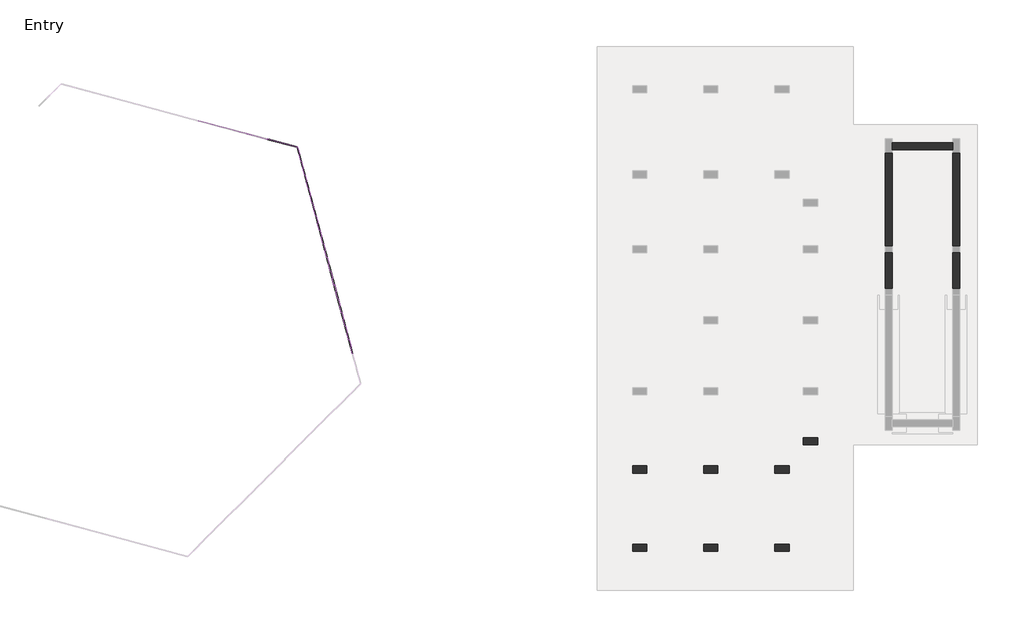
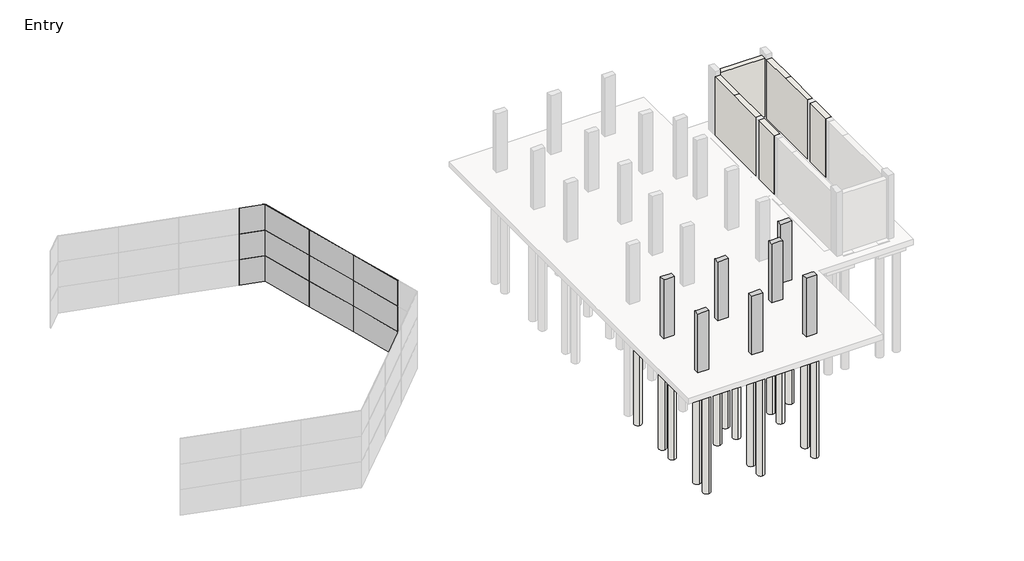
# One storey, part 2 of 4: 39 plates, 24 slabs, 7 columns, 5 walls.
"""IFC4 building model written with IfcOpenShell, lengths in millimetres."""

from ifc_helpers import new_model, si_unit, point, frame, frame_2d, origin, origin_with_axes, place, context, project, spatial, polyline, circle_curve, trimmed, segment, composite_curve, outline, extrude, faceted_brep, transform, mapped, element, save
from components import system_panel_glazed_1e57f9bb, system_panel_glazed_41de1ca9

model = new_model("IFC4")

# Units and contexts
model_context = context("Model", 3, world=origin())
ifc_project = project(units=[si_unit("LENGTHUNIT", "METRE", prefix="MILLI")], contexts=[model_context])

# Site, building, storey
site = spatial("IfcSite", under=ifc_project)
building = spatial("IfcBuilding", under=site)
storey = spatial("IfcBuildingStorey", under=building, Name="Entry", Elevation=0.0)

# Columns
placement = place(None, origin())
element("IfcColumn", 1, ObjectType="Concrete-Rectangular-Column : 12 x 24", at=placement, inside=storey, context=model_context, shape_type="Brep", body=[
    faceted_brep([(-15967.1663981, -6032.6512152, 0.0), (-15357.5663981, -6032.6512152, 0.0), (-15357.5663981, -6337.4512152, 0.0), (-15967.1663981, -6337.4512152, 0.0), (-15967.1663981, -6032.6512152, 3505.2), (-15814.7663981, -6032.6512152, 3505.2), (-15509.9663981, -6032.6512152, 3505.2), (-15357.5663981, -6032.6512152, 3505.2), (-15357.5663981, -6032.6512152, 2895.6), (-15357.5663981, -6337.4512152, 3505.2), (-15357.5663981, -6337.4512152, 2895.6), (-15509.9663981, -6337.4512152, 3505.2), (-15814.7663981, -6337.4512152, 3505.2), (-15967.1663981, -6337.4512152, 3505.2)], [[[0, 1, 2, 3]], [[4, 5, 6, 7, 8, 1, 0]], [[7, 9, 10, 2, 1, 8]], [[9, 11, 12, 13, 3, 2, 10]], [[13, 4, 0, 3]], [[4, 13, 12, 11, 9, 7, 6, 5]]]),
])
element("IfcColumn", 2, ObjectType="Concrete-Rectangular-Column : 12 x 24", at=placement, inside=storey, context=model_context, shape_type="Brep", body=[
    faceted_brep([(-15967.1663981, -9385.4512152, 0.0), (-15357.5663981, -9385.4512152, 0.0), (-15357.5663981, -9690.2512152, 0.0), (-15967.1663981, -9690.2512152, 0.0), (-15967.1663981, -9385.4512152, 3505.2), (-15814.7663981, -9385.4512152, 3505.2), (-15509.9663981, -9385.4512152, 3505.2), (-15357.5663981, -9385.4512152, 3505.2), (-15357.5663981, -9385.4512152, 2895.6), (-15357.5663981, -9690.2512152, 3505.2), (-15357.5663981, -9690.2512152, 2895.6), (-15967.1663981, -9690.2512152, 3505.2)], [[[0, 1, 2, 3]], [[4, 5, 6, 7, 8, 1, 0]], [[7, 9, 10, 2, 1, 8]], [[9, 11, 3, 2, 10]], [[11, 4, 0, 3]], [[4, 11, 9, 7, 6, 5]]]),
])
element("IfcColumn", 3, ObjectType="Concrete-Rectangular-Column : 12 x 24", at=placement, inside=storey, context=model_context, shape_type="Brep", body=[
    faceted_brep([(-12919.1663981, -9385.4512152, 0.0), (-12309.5663981, -9385.4512152, 0.0), (-12309.5663981, -9690.2512152, 0.0), (-12919.1663981, -9690.2512152, 0.0), (-12919.1663981, -9385.4512152, 3505.2), (-12766.7663981, -9385.4512152, 3505.2), (-12461.9663981, -9385.4512152, 3505.2), (-12309.5663981, -9385.4512152, 3505.2), (-12309.5663981, -9385.4512152, 2895.6), (-12919.1663981, -9385.4512152, 2895.6), (-12309.5663981, -9690.2512152, 3505.2), (-12309.5663981, -9690.2512152, 2895.6), (-12919.1663981, -9690.2512152, 3505.2), (-12919.1663981, -9690.2512152, 2895.6)], [[[0, 1, 2, 3]], [[4, 5, 6, 7, 8, 1, 0, 9]], [[7, 10, 11, 2, 1, 8]], [[10, 12, 13, 3, 2, 11]], [[12, 4, 9, 0, 3, 13]], [[4, 12, 10, 7, 6, 5]]]),
])
element("IfcColumn", 4, ObjectType="Concrete-Rectangular-Column : 12 x 24", at=placement, inside=storey, context=model_context, shape_type="Brep", body=[
    faceted_brep([(-12919.1663981, -6032.6512152, 0.0), (-12309.5663981, -6032.6512152, 0.0), (-12309.5663981, -6337.4512152, 0.0), (-12919.1663981, -6337.4512152, 0.0), (-12919.1663981, -6032.6512152, 3505.2), (-12766.7663981, -6032.6512152, 3505.2), (-12461.9663981, -6032.6512152, 3505.2), (-12309.5663981, -6032.6512152, 3505.2), (-12309.5663981, -6032.6512152, 2895.6), (-12919.1663981, -6032.6512152, 2895.6), (-12309.5663981, -6337.4512152, 3505.2), (-12309.5663981, -6337.4512152, 2895.6), (-12461.9663981, -6337.4512152, 3505.2), (-12766.7663981, -6337.4512152, 3505.2), (-12919.1663981, -6337.4512152, 3505.2), (-12919.1663981, -6337.4512152, 2895.6)], [[[0, 1, 2, 3]], [[4, 5, 6, 7, 8, 1, 0, 9]], [[7, 10, 11, 2, 1, 8]], [[10, 12, 13, 14, 15, 3, 2, 11]], [[14, 4, 9, 0, 3, 15]], [[4, 14, 13, 12, 10, 7, 6, 5]]]),
])
element("IfcColumn", 5, ObjectType="Concrete-Rectangular-Column : 12 x 24", at=placement, inside=storey, context=model_context, shape_type="Brep", body=[
    faceted_brep([(-8651.9663981, -4813.4512152, 0.0), (-8042.3663981, -4813.4512152, 0.0), (-8042.3663981, -5118.2512152, 0.0), (-8651.9663981, -5118.2512152, 0.0), (-8651.9663981, -4813.4512152, 3505.2), (-8499.5663981, -4813.4512152, 3505.2), (-8194.7663981, -4813.4512152, 3505.2), (-8042.3663981, -4813.4512152, 3505.2), (-8651.9663981, -4813.4512152, 2895.6), (-8042.3663981, -5118.2512152, 3505.2), (-8651.9663981, -5118.2512152, 3505.2), (-8651.9663981, -5118.2512152, 2895.6)], [[[0, 1, 2, 3]], [[4, 5, 6, 7, 1, 0, 8]], [[7, 9, 2, 1]], [[9, 10, 11, 3, 2]], [[10, 4, 8, 0, 3, 11]], [[4, 10, 9, 7, 6, 5]]]),
])
element("IfcColumn", 6, ObjectType="Concrete-Rectangular-Column : 12 x 24", at=placement, inside=storey, context=model_context, shape_type="Brep", body=[
    faceted_brep([(-9261.5663981, -6337.4512152, 0.0), (-9871.1663981, -6337.4512152, 0.0), (-9871.1663981, -6032.6512152, 0.0), (-9261.5663981, -6032.6512152, 0.0), (-9261.5663981, -6337.4512152, 3505.2), (-9413.9663981, -6337.4512152, 3505.2), (-9718.7663981, -6337.4512152, 3505.2), (-9871.1663981, -6337.4512152, 3505.2), (-9871.1663981, -6337.4512152, 2895.6), (-9871.1663981, -6032.6512152, 3505.2), (-9871.1663981, -6032.6512152, 2895.6), (-9718.7663981, -6032.6512152, 3505.2), (-9413.9663981, -6032.6512152, 3505.2), (-9261.5663981, -6032.6512152, 3505.2)], [[[0, 1, 2, 3]], [[4, 5, 6, 7, 8, 1, 0]], [[7, 9, 10, 2, 1, 8]], [[9, 11, 12, 13, 3, 2, 10]], [[13, 4, 0, 3]], [[4, 13, 12, 11, 9, 7, 6, 5]]]),
])
element("IfcColumn", 7, ObjectType="Concrete-Rectangular-Column : 12 x 24", at=placement, inside=storey, context=model_context, shape_type="Brep", body=[
    faceted_brep([(-9261.5663981, -9690.2512152, 0.0), (-9871.1663981, -9690.2512152, 0.0), (-9871.1663981, -9385.4512152, 0.0), (-9261.5663981, -9385.4512152, 0.0), (-9261.5663981, -9690.2512152, 3505.2), (-9871.1663981, -9690.2512152, 3505.2), (-9871.1663981, -9690.2512152, 2895.6), (-9871.1663981, -9385.4512152, 3505.2), (-9871.1663981, -9385.4512152, 2895.6), (-9718.7663981, -9385.4512152, 3505.2), (-9413.9663981, -9385.4512152, 3505.2), (-9261.5663981, -9385.4512152, 3505.2)], [[[0, 1, 2, 3]], [[4, 5, 6, 1, 0]], [[5, 7, 8, 2, 1, 6]], [[7, 9, 10, 11, 3, 2, 8]], [[11, 4, 0, 3]], [[4, 11, 10, 9, 7, 5]]]),
])

# Plates
system_panel_glazed_shape = system_panel_glazed_1e57f9bb(model_context)
element("IfcPlate", 8, ObjectType="System Panel : Glazed", at=placement, inside=storey, context=model_context, shape_type="MappedRepresentation", body=[
    mapped(system_panel_glazed_shape, transform((-29974.9189673, 6134.6850315, 0.0), x_axis=(0.25881904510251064, -0.965925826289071, 0.0), y_axis=(0.965925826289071, 0.25881904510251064, 0.0), z_axis=(0.0, 0.0, 1.0))),
])
element("IfcPlate", 9, ObjectType="System Panel : Glazed", at=placement, inside=storey, context=model_context, shape_type="MappedRepresentation", body=[
    mapped(system_panel_glazed_shape, transform((-29186.0385178, 3190.5431128, 0.0), x_axis=(0.25881904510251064, -0.965925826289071, 0.0), y_axis=(0.965925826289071, 0.25881904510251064, 0.0), z_axis=(0.0, 0.0, 1.0))),
])
element("IfcPlate", 10, ObjectType="System Panel : Glazed", at=placement, inside=storey, context=model_context, shape_type="MappedRepresentation", body=[
    mapped(system_panel_glazed_shape, transform((-28397.1580683, 246.4011943, 0.0), x_axis=(0.25881904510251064, -0.965925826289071, 0.0), y_axis=(0.965925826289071, 0.25881904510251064, 0.0), z_axis=(0.0, 0.0, 1.0))),
])
element("IfcPlate", 11, ObjectType="System Panel : Glazed", at=placement, inside=storey, context=model_context, shape_type="MappedRepresentation", body=[
    mapped(system_panel_glazed_shape, transform((-29974.9189673, 6134.6850315, 1524.0), x_axis=(0.25881904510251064, -0.965925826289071, 0.0), y_axis=(0.965925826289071, 0.25881904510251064, 0.0), z_axis=(0.0, 0.0, 1.0))),
])
element("IfcPlate", 12, ObjectType="System Panel : Glazed", at=placement, inside=storey, context=model_context, shape_type="MappedRepresentation", body=[
    mapped(system_panel_glazed_shape, transform((-29186.0385178, 3190.5431128, 1524.0), x_axis=(0.25881904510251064, -0.965925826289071, 0.0), y_axis=(0.965925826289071, 0.25881904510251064, 0.0), z_axis=(0.0, 0.0, 1.0))),
])
element("IfcPlate", 13, ObjectType="System Panel : Glazed", at=placement, inside=storey, context=model_context, shape_type="MappedRepresentation", body=[
    mapped(system_panel_glazed_shape, transform((-28397.1580683, 246.4011943, 1524.0), x_axis=(0.25881904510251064, -0.965925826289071, 0.0), y_axis=(0.965925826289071, 0.25881904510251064, 0.0), z_axis=(0.0, 0.0, 1.0))),
])
element("IfcPlate", 14, ObjectType="System Panel : Glazed", at=placement, inside=storey, context=model_context, shape_type="MappedRepresentation", body=[
    mapped(system_panel_glazed_shape, transform((-29974.9189673, 6134.6850315, 3048.0), x_axis=(0.25881904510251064, -0.965925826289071, 0.0), y_axis=(0.965925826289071, 0.25881904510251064, 0.0), z_axis=(0.0, 0.0, 1.0))),
])
element("IfcPlate", 15, ObjectType="System Panel : Glazed", at=placement, inside=storey, context=model_context, shape_type="MappedRepresentation", body=[
    mapped(system_panel_glazed_shape, transform((-29186.0385178, 3190.5431128, 3048.0), x_axis=(0.25881904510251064, -0.965925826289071, 0.0), y_axis=(0.965925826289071, 0.25881904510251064, 0.0), z_axis=(0.0, 0.0, 1.0))),
])
element("IfcPlate", 16, ObjectType="System Panel : Glazed", at=placement, inside=storey, context=model_context, shape_type="MappedRepresentation", body=[
    mapped(system_panel_glazed_shape, transform((-28397.1580683, 246.4011943, 3048.0), x_axis=(0.25881904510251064, -0.965925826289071, 0.0), y_axis=(0.965925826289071, 0.25881904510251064, 0.0), z_axis=(0.0, 0.0, 1.0))),
])
element("IfcPlate", 17, ObjectType="System Panel : Glazed", at=placement, inside=storey, context=model_context, shape_type="MappedRepresentation", body=[
    mapped(system_panel_glazed_shape, transform((-29974.9189673, 6134.6850315, 0.0), x_axis=(0.25881904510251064, -0.965925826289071, 0.0), y_axis=(0.965925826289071, 0.25881904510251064, 0.0), z_axis=(0.0, 0.0, 1.0))),
])
element("IfcPlate", 18, ObjectType="System Panel : Glazed", at=placement, inside=storey, context=model_context, shape_type="MappedRepresentation", body=[
    mapped(system_panel_glazed_shape, transform((-29186.0385178, 3190.5431128, 0.0), x_axis=(0.25881904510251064, -0.965925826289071, 0.0), y_axis=(0.965925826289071, 0.25881904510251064, 0.0), z_axis=(0.0, 0.0, 1.0))),
])
element("IfcPlate", 19, ObjectType="System Panel : Glazed", at=placement, inside=storey, context=model_context, shape_type="MappedRepresentation", body=[
    mapped(system_panel_glazed_shape, transform((-28397.1580683, 246.4011943, 0.0), x_axis=(0.25881904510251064, -0.965925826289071, 0.0), y_axis=(0.965925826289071, 0.25881904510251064, 0.0), z_axis=(0.0, 0.0, 1.0))),
])
element("IfcPlate", 20, ObjectType="System Panel : Glazed", at=placement, inside=storey, context=model_context, shape_type="MappedRepresentation", body=[
    mapped(system_panel_glazed_shape, transform((-29974.9189673, 6134.6850315, 1524.0), x_axis=(0.25881904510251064, -0.965925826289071, 0.0), y_axis=(0.965925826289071, 0.25881904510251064, 0.0), z_axis=(0.0, 0.0, 1.0))),
])
element("IfcPlate", 21, ObjectType="System Panel : Glazed", at=placement, inside=storey, context=model_context, shape_type="MappedRepresentation", body=[
    mapped(system_panel_glazed_shape, transform((-29186.0385178, 3190.5431128, 1524.0), x_axis=(0.25881904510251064, -0.965925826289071, 0.0), y_axis=(0.965925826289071, 0.25881904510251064, 0.0), z_axis=(0.0, 0.0, 1.0))),
])
element("IfcPlate", 22, ObjectType="System Panel : Glazed", at=placement, inside=storey, context=model_context, shape_type="MappedRepresentation", body=[
    mapped(system_panel_glazed_shape, transform((-28397.1580683, 246.4011943, 1524.0), x_axis=(0.25881904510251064, -0.965925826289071, 0.0), y_axis=(0.965925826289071, 0.25881904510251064, 0.0), z_axis=(0.0, 0.0, 1.0))),
])
element("IfcPlate", 23, ObjectType="System Panel : Glazed", at=placement, inside=storey, context=model_context, shape_type="MappedRepresentation", body=[
    mapped(system_panel_glazed_shape, transform((-29974.9189673, 6134.6850315, 3048.0), x_axis=(0.25881904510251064, -0.965925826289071, 0.0), y_axis=(0.965925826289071, 0.25881904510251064, 0.0), z_axis=(0.0, 0.0, 1.0))),
])
element("IfcPlate", 24, ObjectType="System Panel : Glazed", at=placement, inside=storey, context=model_context, shape_type="MappedRepresentation", body=[
    mapped(system_panel_glazed_shape, transform((-29186.0385178, 3190.5431128, 3048.0), x_axis=(0.25881904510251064, -0.965925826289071, 0.0), y_axis=(0.965925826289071, 0.25881904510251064, 0.0), z_axis=(0.0, 0.0, 1.0))),
])
element("IfcPlate", 25, ObjectType="System Panel : Glazed", at=placement, inside=storey, context=model_context, shape_type="MappedRepresentation", body=[
    mapped(system_panel_glazed_shape, transform((-28397.1580683, 246.4011943, 3048.0), x_axis=(0.25881904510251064, -0.965925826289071, 0.0), y_axis=(0.965925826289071, 0.25881904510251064, 0.0), z_axis=(0.0, 0.0, 1.0))),
])
element("IfcPlate", 26, ObjectType="System Panel : Glazed", at=placement, inside=storey, context=model_context, shape_type="MappedRepresentation", body=[
    mapped(system_panel_glazed_shape, transform((-29974.9189673, 6134.6850315, 0.0), x_axis=(0.25881904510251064, -0.965925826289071, 0.0), y_axis=(0.965925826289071, 0.25881904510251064, 0.0), z_axis=(0.0, 0.0, 1.0))),
])
element("IfcPlate", 27, ObjectType="System Panel : Glazed", at=placement, inside=storey, context=model_context, shape_type="MappedRepresentation", body=[
    mapped(system_panel_glazed_shape, transform((-33105.3079985, 8339.8512641, 0.0), x_axis=(0.9659258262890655, -0.25881904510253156, 0.0), y_axis=(0.25881904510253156, 0.9659258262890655, 0.0), z_axis=(0.0, 0.0, 1.0))),
])
element("IfcPlate", 28, ObjectType="System Panel : Glazed", at=placement, inside=storey, context=model_context, shape_type="MappedRepresentation", body=[
    mapped(system_panel_glazed_shape, transform((-33105.3079985, 8339.8512641, 1524.0), x_axis=(0.9659258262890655, -0.25881904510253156, 0.0), y_axis=(0.25881904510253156, 0.9659258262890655, 0.0), z_axis=(0.0, 0.0, 1.0))),
])
element("IfcPlate", 29, ObjectType="System Panel : Glazed", at=placement, inside=storey, context=model_context, shape_type="MappedRepresentation", body=[
    mapped(system_panel_glazed_shape, transform((-33105.3079985, 8339.8512641, 3048.0), x_axis=(0.9659258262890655, -0.25881904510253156, 0.0), y_axis=(0.25881904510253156, 0.9659258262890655, 0.0), z_axis=(0.0, 0.0, 1.0))),
])
element("IfcPlate", 30, ObjectType="System Panel : Glazed", at=placement, inside=storey, context=model_context, shape_type="MappedRepresentation", body=[
    mapped(system_panel_glazed_shape, transform((-29186.0385178, 3190.5431128, 0.0), x_axis=(0.25881904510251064, -0.965925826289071, 0.0), y_axis=(0.965925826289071, 0.25881904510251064, 0.0), z_axis=(0.0, 0.0, 1.0))),
])
element("IfcPlate", 31, ObjectType="System Panel : Glazed", at=placement, inside=storey, context=model_context, shape_type="MappedRepresentation", body=[
    mapped(system_panel_glazed_shape, transform((-28397.1580683, 246.4011943, 0.0), x_axis=(0.25881904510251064, -0.965925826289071, 0.0), y_axis=(0.965925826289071, 0.25881904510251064, 0.0), z_axis=(0.0, 0.0, 1.0))),
])
element("IfcPlate", 32, ObjectType="System Panel : Glazed", at=placement, inside=storey, context=model_context, shape_type="MappedRepresentation", body=[
    mapped(system_panel_glazed_shape, transform((-29974.9189673, 6134.6850315, 1524.0), x_axis=(0.25881904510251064, -0.965925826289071, 0.0), y_axis=(0.965925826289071, 0.25881904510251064, 0.0), z_axis=(0.0, 0.0, 1.0))),
])
element("IfcPlate", 33, ObjectType="System Panel : Glazed", at=placement, inside=storey, context=model_context, shape_type="MappedRepresentation", body=[
    mapped(system_panel_glazed_shape, transform((-29186.0385178, 3190.5431128, 1524.0), x_axis=(0.25881904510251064, -0.965925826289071, 0.0), y_axis=(0.965925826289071, 0.25881904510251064, 0.0), z_axis=(0.0, 0.0, 1.0))),
])
element("IfcPlate", 34, ObjectType="System Panel : Glazed", at=placement, inside=storey, context=model_context, shape_type="MappedRepresentation", body=[
    mapped(system_panel_glazed_shape, transform((-28397.1580683, 246.4011943, 1524.0), x_axis=(0.25881904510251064, -0.965925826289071, 0.0), y_axis=(0.965925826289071, 0.25881904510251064, 0.0), z_axis=(0.0, 0.0, 1.0))),
])
element("IfcPlate", 35, ObjectType="System Panel : Glazed", at=placement, inside=storey, context=model_context, shape_type="MappedRepresentation", body=[
    mapped(system_panel_glazed_shape, transform((-29974.9189673, 6134.6850315, 3048.0), x_axis=(0.25881904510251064, -0.965925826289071, 0.0), y_axis=(0.965925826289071, 0.25881904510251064, 0.0), z_axis=(0.0, 0.0, 1.0))),
])
element("IfcPlate", 36, ObjectType="System Panel : Glazed", at=placement, inside=storey, context=model_context, shape_type="MappedRepresentation", body=[
    mapped(system_panel_glazed_shape, transform((-29186.0385178, 3190.5431128, 3048.0), x_axis=(0.25881904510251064, -0.965925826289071, 0.0), y_axis=(0.965925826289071, 0.25881904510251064, 0.0), z_axis=(0.0, 0.0, 1.0))),
])
element("IfcPlate", 37, ObjectType="System Panel : Glazed", at=placement, inside=storey, context=model_context, shape_type="MappedRepresentation", body=[
    mapped(system_panel_glazed_shape, transform((-28397.1580683, 246.4011943, 3048.0), x_axis=(0.25881904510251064, -0.965925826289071, 0.0), y_axis=(0.965925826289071, 0.25881904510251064, 0.0), z_axis=(0.0, 0.0, 1.0))),
])
system_panel_glazed_2_shape = system_panel_glazed_41de1ca9(model_context)
element("IfcPlate", 38, ObjectType="System Panel : Glazed", at=placement, inside=storey, context=model_context, shape_type="MappedRepresentation", body=[
    mapped(system_panel_glazed_2_shape, transform((-31001.2981157, 7776.0835151, 0.0), x_axis=(0.9659258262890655, -0.25881904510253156, 0.0), y_axis=(0.25881904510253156, 0.9659258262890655, 0.0), z_axis=(0.0, 0.0, 1.0))),
])
element("IfcPlate", 39, ObjectType="System Panel : Glazed", at=placement, inside=storey, context=model_context, shape_type="MappedRepresentation", body=[
    mapped(system_panel_glazed_2_shape, transform((-31001.2981157, 7776.0835151, 1524.0), x_axis=(0.9659258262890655, -0.25881904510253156, 0.0), y_axis=(0.25881904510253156, 0.9659258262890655, 0.0), z_axis=(0.0, 0.0, 1.0))),
])
element("IfcPlate", 40, ObjectType="System Panel : Glazed", at=placement, inside=storey, context=model_context, shape_type="MappedRepresentation", body=[
    mapped(system_panel_glazed_2_shape, transform((-31001.2981157, 7776.0835151, 3048.0), x_axis=(0.9659258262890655, -0.25881904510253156, 0.0), y_axis=(0.25881904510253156, 0.9659258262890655, 0.0), z_axis=(0.0, 0.0, 1.0))),
])
element("IfcPlate", 41, ObjectType="System Panel : Glazed", at=placement, inside=storey, context=model_context, shape_type="MappedRepresentation", body=[
    mapped(system_panel_glazed_2_shape, transform((-31001.2981157, 7776.0835151, 0.0), x_axis=(0.9659258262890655, -0.25881904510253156, 0.0), y_axis=(0.25881904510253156, 0.9659258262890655, 0.0), z_axis=(0.0, 0.0, 1.0))),
])
element("IfcPlate", 42, ObjectType="System Panel : Glazed", at=placement, inside=storey, context=model_context, shape_type="MappedRepresentation", body=[
    mapped(system_panel_glazed_2_shape, transform((-31001.2981157, 7776.0835151, 1524.0), x_axis=(0.9659258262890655, -0.25881904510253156, 0.0), y_axis=(0.25881904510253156, 0.9659258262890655, 0.0), z_axis=(0.0, 0.0, 1.0))),
])
element("IfcPlate", 43, ObjectType="System Panel : Glazed", at=placement, inside=storey, context=model_context, shape_type="MappedRepresentation", body=[
    mapped(system_panel_glazed_2_shape, transform((-31001.2981157, 7776.0835151, 3048.0), x_axis=(0.9659258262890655, -0.25881904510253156, 0.0), y_axis=(0.25881904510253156, 0.9659258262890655, 0.0), z_axis=(0.0, 0.0, 1.0))),
])
element("IfcPlate", 44, ObjectType="System Panel : Glazed", at=placement, inside=storey, context=model_context, shape_type="MappedRepresentation", body=[
    mapped(system_panel_glazed_2_shape, transform((-31001.2981157, 7776.0835151, 0.0), x_axis=(0.9659258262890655, -0.25881904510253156, 0.0), y_axis=(0.25881904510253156, 0.9659258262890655, 0.0), z_axis=(0.0, 0.0, 1.0))),
])
element("IfcPlate", 45, ObjectType="System Panel : Glazed", at=placement, inside=storey, context=model_context, shape_type="MappedRepresentation", body=[
    mapped(system_panel_glazed_2_shape, transform((-31001.2981157, 7776.0835151, 1524.0), x_axis=(0.9659258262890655, -0.25881904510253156, 0.0), y_axis=(0.25881904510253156, 0.9659258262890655, 0.0), z_axis=(0.0, 0.0, 1.0))),
])
element("IfcPlate", 46, ObjectType="System Panel : Glazed", at=placement, inside=storey, context=model_context, shape_type="MappedRepresentation", body=[
    mapped(system_panel_glazed_2_shape, transform((-31001.2981157, 7776.0835151, 3048.0), x_axis=(0.9659258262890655, -0.25881904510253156, 0.0), y_axis=(0.25881904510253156, 0.9659258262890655, 0.0), z_axis=(0.0, 0.0, 1.0))),
])

# Slabs
element("IfcSlab", 47, ObjectType="Pile Cap-2 Pile : 31\"x61\"x35\"", at=placement, inside=storey, context=model_context, shape_type="SweptSolid", body=[
    extrude(outline(polyline([(-16068.7663981, -5410.3512152), (-15255.9663981, -5410.3512152), (-15255.9663981, -6959.7512152), (-16068.7663981, -6959.7512152), (-16068.7663981, -5410.3512152)])), frame((0.0, 0.0, -889.0), z_axis=(0.0, 0.0, 1.0), x_axis=(1.0, 0.0, 0.0)), (0.0, 0.0, 1.0), 584.2),
])
element("IfcSlab", 48, ObjectType="Pile Cap-2 Pile : 31\"x61\"x35\"", at=placement, inside=storey, context=model_context, shape_type="SweptSolid", body=[
    extrude(outline(polyline([(-16068.7663981, -8763.1512152), (-15255.9663981, -8763.1512152), (-15255.9663981, -10312.5512152), (-16068.7663981, -10312.5512152), (-16068.7663981, -8763.1512152)])), frame((0.0, 0.0, -889.0), z_axis=(0.0, 0.0, 1.0), x_axis=(1.0, 0.0, 0.0)), (0.0, 0.0, 1.0), 584.2),
])
element("IfcSlab", 49, ObjectType="Pile Cap-2 Pile : 31\"x61\"x35\"", at=placement, inside=storey, context=model_context, shape_type="SweptSolid", body=[
    extrude(outline(polyline([(-13020.7663981, -8763.1512152), (-12207.9663981, -8763.1512152), (-12207.9663981, -10312.5512152), (-13020.7663981, -10312.5512152), (-13020.7663981, -8763.1512152)])), frame((0.0, 0.0, -889.0), z_axis=(0.0, 0.0, 1.0), x_axis=(1.0, 0.0, 0.0)), (0.0, 0.0, 1.0), 584.2),
])
element("IfcSlab", 50, ObjectType="Pile Cap-2 Pile : 31\"x61\"x35\"", at=placement, inside=storey, context=model_context, shape_type="SweptSolid", body=[
    extrude(outline(polyline([(-9159.9663981, -6959.7512152), (-9972.7663981, -6959.7512152), (-9972.7663981, -5410.3512152), (-9159.9663981, -5410.3512152), (-9159.9663981, -6959.7512152)])), frame((0.0, 0.0, -889.0), z_axis=(0.0, 0.0, 1.0), x_axis=(1.0, 0.0, 0.0)), (0.0, 0.0, 1.0), 584.2),
])
element("IfcSlab", 51, ObjectType="Pile Cap-2 Pile : 31\"x61\"x35\"", at=placement, inside=storey, context=model_context, shape_type="SweptSolid", body=[
    extrude(outline(polyline([(-9159.9663981, -10312.5512152), (-9972.7663981, -10312.5512152), (-9972.7663981, -8763.1512152), (-9159.9663981, -8763.1512152), (-9159.9663981, -10312.5512152)])), frame((0.0, 0.0, -889.0), z_axis=(0.0, 0.0, 1.0), x_axis=(1.0, 0.0, 0.0)), (0.0, 0.0, 1.0), 584.2),
])
element("IfcSlab", 52, ObjectType="Pile Cap-2 Pile : 31\"x61\"x35\"", at=placement, inside=storey, context=model_context, shape_type="SweptSolid", body=[
    extrude(outline(polyline([(-8753.5663981, -4191.1512152), (-7940.7663981, -4191.1512152), (-7940.7663981, -5740.5512152), (-8753.5663981, -5740.5512152), (-8753.5663981, -4191.1512152)])), frame((0.0, 0.0, -889.0), z_axis=(0.0, 0.0, 1.0), x_axis=(1.0, 0.0, 0.0)), (0.0, 0.0, 1.0), 584.2),
])
element("IfcSlab", 53, ObjectType="Pile Cap-4 Pile : 72\"x72\"x35\"", at=placement, inside=storey, context=model_context, shape_type="SweptSolid", body=[
    extrude(outline(polyline([(-13528.7663981, -5270.6512152), (-11699.9663981, -5270.6512152), (-11699.9663981, -7099.4512152), (-13528.7663981, -7099.4512152), (-13528.7663981, -5270.6512152)])), frame((0.0, 0.0, -889.0), z_axis=(0.0, 0.0, 1.0), x_axis=(1.0, 0.0, 0.0)), (0.0, 0.0, 1.0), 584.2),
])
element("IfcSlab", 54, ObjectType="Pile-Steel Pipe : 16\" Diameter", at=placement, inside=storey, context=model_context, shape_type="SweptSolid", body=[
    extrude(outline(composite_curve([segment(trimmed(circle_curve(frame_2d((-13147.7663981, -6718.4512152)), 203.2), [point((-13147.7663981, -6921.6512152))], [point((-13147.7663981, -6515.2512152))], False, "CARTESIAN"), True, "CONTINUOUS"), segment(trimmed(circle_curve(frame_2d((-13147.7663981, -6718.4512152)), 203.2), [point((-13147.7663981, -6515.2512152))], [point((-13147.7663981, -6921.6512152))], False, "CARTESIAN"), True, "CONTINUOUS")], self_intersect=False)), frame((0.0, 0.0, -6985.0), z_axis=(0.0, 0.0, 1.0), x_axis=(1.0, 0.0, 0.0)), (0.0, 0.0, 1.0), 6096.0),
])
element("IfcSlab", 55, ObjectType="Pile-Steel Pipe : 16\" Diameter", at=placement, inside=storey, context=model_context, shape_type="SweptSolid", body=[
    extrude(outline(composite_curve([segment(trimmed(circle_curve(frame_2d((-12080.9663981, -6718.4512152)), 203.2), [point((-12080.9663981, -6921.6512152))], [point((-12080.9663981, -6515.2512152))], False, "CARTESIAN"), True, "CONTINUOUS"), segment(trimmed(circle_curve(frame_2d((-12080.9663981, -6718.4512152)), 203.2), [point((-12080.9663981, -6515.2512152))], [point((-12080.9663981, -6921.6512152))], False, "CARTESIAN"), True, "CONTINUOUS")], self_intersect=False)), frame((0.0, 0.0, -6985.0), z_axis=(0.0, 0.0, 1.0), x_axis=(1.0, 0.0, 0.0)), (0.0, 0.0, 1.0), 6096.0),
])
element("IfcSlab", 56, ObjectType="Pile-Steel Pipe : 16\" Diameter", at=placement, inside=storey, context=model_context, shape_type="SweptSolid", body=[
    extrude(outline(composite_curve([segment(trimmed(circle_curve(frame_2d((-12080.9663981, -5651.6512152)), 203.2), [point((-12080.9663981, -5854.8512152))], [point((-12080.9663981, -5448.4512152))], False, "CARTESIAN"), True, "CONTINUOUS"), segment(trimmed(circle_curve(frame_2d((-12080.9663981, -5651.6512152)), 203.2), [point((-12080.9663981, -5448.4512152))], [point((-12080.9663981, -5854.8512152))], False, "CARTESIAN"), True, "CONTINUOUS")], self_intersect=False)), frame((0.0, 0.0, -6985.0), z_axis=(0.0, 0.0, 1.0), x_axis=(1.0, 0.0, 0.0)), (0.0, 0.0, 1.0), 6096.0),
])
element("IfcSlab", 57, ObjectType="Pile-Steel Pipe : 16\" Diameter", at=placement, inside=storey, context=model_context, shape_type="SweptSolid", body=[
    extrude(outline(composite_curve([segment(trimmed(circle_curve(frame_2d((-13147.7663981, -5651.6512152)), 203.2), [point((-13147.7663981, -5854.8512152))], [point((-13147.7663981, -5448.4512152))], False, "CARTESIAN"), True, "CONTINUOUS"), segment(trimmed(circle_curve(frame_2d((-13147.7663981, -5651.6512152)), 203.2), [point((-13147.7663981, -5448.4512152))], [point((-13147.7663981, -5854.8512152))], False, "CARTESIAN"), True, "CONTINUOUS")], self_intersect=False)), frame((0.0, 0.0, -6985.0), z_axis=(0.0, 0.0, 1.0), x_axis=(1.0, 0.0, 0.0)), (0.0, 0.0, 1.0), 6096.0),
])
element("IfcSlab", 58, ObjectType="Pile-Steel Pipe : 16\" Diameter", at=placement, inside=storey, context=model_context, shape_type="SweptSolid", body=[
    extrude(outline(composite_curve([segment(trimmed(circle_curve(frame_2d((-15662.3663981, -3302.1512152)), 203.2), [point((-15662.3663981, -3505.3512152))], [point((-15662.3663981, -3098.9512152))], False, "CARTESIAN"), True, "CONTINUOUS"), segment(trimmed(circle_curve(frame_2d((-15662.3663981, -3302.1512152)), 203.2), [point((-15662.3663981, -3098.9512152))], [point((-15662.3663981, -3505.3512152))], False, "CARTESIAN"), True, "CONTINUOUS")], self_intersect=False)), frame((0.0, 0.0, -6985.0), z_axis=(0.0, 0.0, 1.0), x_axis=(1.0, 0.0, 0.0)), (0.0, 0.0, 1.0), 6096.0),
])
element("IfcSlab", 59, ObjectType="Pile-Steel Pipe : 16\" Diameter", at=placement, inside=storey, context=model_context, shape_type="SweptSolid", body=[
    extrude(outline(composite_curve([segment(trimmed(circle_curve(frame_2d((-15662.3663981, -6654.9512152)), 203.2), [point((-15662.3663981, -6858.1512152))], [point((-15662.3663981, -6451.7512152))], False, "CARTESIAN"), True, "CONTINUOUS"), segment(trimmed(circle_curve(frame_2d((-15662.3663981, -6654.9512152)), 203.2), [point((-15662.3663981, -6451.7512152))], [point((-15662.3663981, -6858.1512152))], False, "CARTESIAN"), True, "CONTINUOUS")], self_intersect=False)), frame((0.0, 0.0, -6985.0), z_axis=(0.0, 0.0, 1.0), x_axis=(1.0, 0.0, 0.0)), (0.0, 0.0, 1.0), 6096.0),
])
element("IfcSlab", 60, ObjectType="Pile-Steel Pipe : 16\" Diameter", at=placement, inside=storey, context=model_context, shape_type="SweptSolid", body=[
    extrude(outline(composite_curve([segment(trimmed(circle_curve(frame_2d((-15662.3663981, -5715.1512152)), 203.2), [point((-15662.3663981, -5918.3512152))], [point((-15662.3663981, -5511.9512152))], False, "CARTESIAN"), True, "CONTINUOUS"), segment(trimmed(circle_curve(frame_2d((-15662.3663981, -5715.1512152)), 203.2), [point((-15662.3663981, -5511.9512152))], [point((-15662.3663981, -5918.3512152))], False, "CARTESIAN"), True, "CONTINUOUS")], self_intersect=False)), frame((0.0, 0.0, -6985.0), z_axis=(0.0, 0.0, 1.0), x_axis=(1.0, 0.0, 0.0)), (0.0, 0.0, 1.0), 6096.0),
])
element("IfcSlab", 61, ObjectType="Pile-Steel Pipe : 16\" Diameter", at=placement, inside=storey, context=model_context, shape_type="SweptSolid", body=[
    extrude(outline(composite_curve([segment(trimmed(circle_curve(frame_2d((-15662.3663981, -10007.7512152)), 203.2), [point((-15662.3663981, -10210.9512152))], [point((-15662.3663981, -9804.5512152))], False, "CARTESIAN"), True, "CONTINUOUS"), segment(trimmed(circle_curve(frame_2d((-15662.3663981, -10007.7512152)), 203.2), [point((-15662.3663981, -9804.5512152))], [point((-15662.3663981, -10210.9512152))], False, "CARTESIAN"), True, "CONTINUOUS")], self_intersect=False)), frame((0.0, 0.0, -6985.0), z_axis=(0.0, 0.0, 1.0), x_axis=(1.0, 0.0, 0.0)), (0.0, 0.0, 1.0), 6096.0),
])
element("IfcSlab", 62, ObjectType="Pile-Steel Pipe : 16\" Diameter", at=placement, inside=storey, context=model_context, shape_type="SweptSolid", body=[
    extrude(outline(composite_curve([segment(trimmed(circle_curve(frame_2d((-15662.3663981, -9067.9512152)), 203.2), [point((-15662.3663981, -9271.1512152))], [point((-15662.3663981, -8864.7512152))], False, "CARTESIAN"), True, "CONTINUOUS"), segment(trimmed(circle_curve(frame_2d((-15662.3663981, -9067.9512152)), 203.2), [point((-15662.3663981, -8864.7512152))], [point((-15662.3663981, -9271.1512152))], False, "CARTESIAN"), True, "CONTINUOUS")], self_intersect=False)), frame((0.0, 0.0, -6985.0), z_axis=(0.0, 0.0, 1.0), x_axis=(1.0, 0.0, 0.0)), (0.0, 0.0, 1.0), 6096.0),
])
element("IfcSlab", 63, ObjectType="Pile-Steel Pipe : 16\" Diameter", at=placement, inside=storey, context=model_context, shape_type="SweptSolid", body=[
    extrude(outline(composite_curve([segment(trimmed(circle_curve(frame_2d((-12614.3663981, -10007.7512152)), 203.2), [point((-12614.3663981, -10210.9512152))], [point((-12614.3663981, -9804.5512152))], False, "CARTESIAN"), True, "CONTINUOUS"), segment(trimmed(circle_curve(frame_2d((-12614.3663981, -10007.7512152)), 203.2), [point((-12614.3663981, -9804.5512152))], [point((-12614.3663981, -10210.9512152))], False, "CARTESIAN"), True, "CONTINUOUS")], self_intersect=False)), frame((0.0, 0.0, -6985.0), z_axis=(0.0, 0.0, 1.0), x_axis=(1.0, 0.0, 0.0)), (0.0, 0.0, 1.0), 6096.0),
])
element("IfcSlab", 64, ObjectType="Pile-Steel Pipe : 16\" Diameter", at=placement, inside=storey, context=model_context, shape_type="SweptSolid", body=[
    extrude(outline(composite_curve([segment(trimmed(circle_curve(frame_2d((-12614.3663981, -9067.9512152)), 203.2), [point((-12614.3663981, -9271.1512152))], [point((-12614.3663981, -8864.7512152))], False, "CARTESIAN"), True, "CONTINUOUS"), segment(trimmed(circle_curve(frame_2d((-12614.3663981, -9067.9512152)), 203.2), [point((-12614.3663981, -8864.7512152))], [point((-12614.3663981, -9271.1512152))], False, "CARTESIAN"), True, "CONTINUOUS")], self_intersect=False)), frame((0.0, 0.0, -6985.0), z_axis=(0.0, 0.0, 1.0), x_axis=(1.0, 0.0, 0.0)), (0.0, 0.0, 1.0), 6096.0),
])
element("IfcSlab", 65, ObjectType="Pile-Steel Pipe : 16\" Diameter", at=placement, inside=storey, context=model_context, shape_type="SweptSolid", body=[
    extrude(outline(composite_curve([segment(trimmed(circle_curve(frame_2d((-9566.3663981, -5715.1512152)), 203.2), [point((-9566.3663981, -5511.9512152))], [point((-9566.3663981, -5918.3512152))], False, "CARTESIAN"), True, "CONTINUOUS"), segment(trimmed(circle_curve(frame_2d((-9566.3663981, -5715.1512152)), 203.2), [point((-9566.3663981, -5918.3512152))], [point((-9566.3663981, -5511.9512152))], False, "CARTESIAN"), True, "CONTINUOUS")], self_intersect=False)), frame((0.0, 0.0, -6985.0), z_axis=(0.0, 0.0, 1.0), x_axis=(1.0, 0.0, 0.0)), (0.0, 0.0, 1.0), 6096.0),
])
element("IfcSlab", 66, ObjectType="Pile-Steel Pipe : 16\" Diameter", at=placement, inside=storey, context=model_context, shape_type="SweptSolid", body=[
    extrude(outline(composite_curve([segment(trimmed(circle_curve(frame_2d((-9566.3663981, -6654.9512152)), 203.2), [point((-9566.3663981, -6451.7512152))], [point((-9566.3663981, -6858.1512152))], False, "CARTESIAN"), True, "CONTINUOUS"), segment(trimmed(circle_curve(frame_2d((-9566.3663981, -6654.9512152)), 203.2), [point((-9566.3663981, -6858.1512152))], [point((-9566.3663981, -6451.7512152))], False, "CARTESIAN"), True, "CONTINUOUS")], self_intersect=False)), frame((0.0, 0.0, -6985.0), z_axis=(0.0, 0.0, 1.0), x_axis=(1.0, 0.0, 0.0)), (0.0, 0.0, 1.0), 6096.0),
])
element("IfcSlab", 67, ObjectType="Pile-Steel Pipe : 16\" Diameter", at=placement, inside=storey, context=model_context, shape_type="SweptSolid", body=[
    extrude(outline(composite_curve([segment(trimmed(circle_curve(frame_2d((-9566.3663981, -9067.9512152)), 203.2), [point((-9566.3663981, -8864.7512152))], [point((-9566.3663981, -9271.1512152))], False, "CARTESIAN"), True, "CONTINUOUS"), segment(trimmed(circle_curve(frame_2d((-9566.3663981, -9067.9512152)), 203.2), [point((-9566.3663981, -9271.1512152))], [point((-9566.3663981, -8864.7512152))], False, "CARTESIAN"), True, "CONTINUOUS")], self_intersect=False)), frame((0.0, 0.0, -6985.0), z_axis=(0.0, 0.0, 1.0), x_axis=(1.0, 0.0, 0.0)), (0.0, 0.0, 1.0), 6096.0),
])
element("IfcSlab", 68, ObjectType="Pile-Steel Pipe : 16\" Diameter", at=placement, inside=storey, context=model_context, shape_type="SweptSolid", body=[
    extrude(outline(composite_curve([segment(trimmed(circle_curve(frame_2d((-9566.3663981, -10007.7512152)), 203.2), [point((-9566.3663981, -9804.5512152))], [point((-9566.3663981, -10210.9512152))], False, "CARTESIAN"), True, "CONTINUOUS"), segment(trimmed(circle_curve(frame_2d((-9566.3663981, -10007.7512152)), 203.2), [point((-9566.3663981, -10210.9512152))], [point((-9566.3663981, -9804.5512152))], False, "CARTESIAN"), True, "CONTINUOUS")], self_intersect=False)), frame((0.0, 0.0, -6985.0), z_axis=(0.0, 0.0, 1.0), x_axis=(1.0, 0.0, 0.0)), (0.0, 0.0, 1.0), 6096.0),
])
element("IfcSlab", 69, ObjectType="Pile-Steel Pipe : 16\" Diameter", at=placement, inside=storey, context=model_context, shape_type="SweptSolid", body=[
    extrude(outline(composite_curve([segment(trimmed(circle_curve(frame_2d((-8347.1663981, -5435.7512152)), 203.2), [point((-8347.1663981, -5638.9512152))], [point((-8347.1663981, -5232.5512152))], False, "CARTESIAN"), True, "CONTINUOUS"), segment(trimmed(circle_curve(frame_2d((-8347.1663981, -5435.7512152)), 203.2), [point((-8347.1663981, -5232.5512152))], [point((-8347.1663981, -5638.9512152))], False, "CARTESIAN"), True, "CONTINUOUS")], self_intersect=False)), frame((0.0, 0.0, -6985.0), z_axis=(0.0, 0.0, 1.0), x_axis=(1.0, 0.0, 0.0)), (0.0, 0.0, 1.0), 6096.0),
])
element("IfcSlab", 70, ObjectType="Pile-Steel Pipe : 16\" Diameter", at=placement, inside=storey, context=model_context, shape_type="SweptSolid", body=[
    extrude(outline(composite_curve([segment(trimmed(circle_curve(frame_2d((-8347.1663981, -4495.9512152)), 203.2), [point((-8347.1663981, -4699.1512152))], [point((-8347.1663981, -4292.7512152))], False, "CARTESIAN"), True, "CONTINUOUS"), segment(trimmed(circle_curve(frame_2d((-8347.1663981, -4495.9512152)), 203.2), [point((-8347.1663981, -4292.7512152))], [point((-8347.1663981, -4699.1512152))], False, "CARTESIAN"), True, "CONTINUOUS")], self_intersect=False)), frame((0.0, 0.0, -6985.0), z_axis=(0.0, 0.0, 1.0), x_axis=(1.0, 0.0, 0.0)), (0.0, 0.0, 1.0), 6096.0),
])

# Walls
element("IfcWall", 71, ObjectType="Core-Shaft - 12\" Concrete", at=placement, inside=storey, context=model_context, shape_type="SweptSolid", body=[
    extrude(outline(polyline([(-2251.1663981, 7530.9487848), (-4841.9663981, 7530.9487848), (-4841.9663981, 7835.7487848), (-2251.1663981, 7835.7487848), (-2251.1663981, 7530.9487848)])), origin_with_axes(), (0.0, 0.0, 1.0), 3505.2),
])
element("IfcWall", 72, ObjectType="Core-Shaft - 12\" Concrete", at=placement, inside=storey, context=model_context, shape_type="SweptSolid", body=[
    extrude(outline(polyline([(7378.5487848, 0.0), (3416.1487848, 0.0), (3416.1487848, 3505.2), (5549.7487848, 3505.2), (7378.5487848, 3505.2), (7378.5487848, 0.0)])), frame((-2251.1663981, 0.0, 0.0), z_axis=(1.0, 0.0, 0.0), x_axis=(0.0, 1.0, 0.0)), (0.0, 0.0, 1.0), 304.8),
])
element("IfcWall", 73, ObjectType="Core-Shaft - 12\" Concrete", at=placement, inside=storey, context=model_context, shape_type="SweptSolid", body=[
    extrude(outline(polyline([(-2251.1663981, 1587.3487848), (-2251.1663981, 3111.3487848), (-1946.3663981, 3111.3487848), (-1946.3663981, 1587.3487848), (-2251.1663981, 1587.3487848)])), origin_with_axes(), (0.0, 0.0, 1.0), 3505.2),
])
element("IfcWall", 74, ObjectType="Core-Shaft - 12\" Concrete", at=placement, inside=storey, context=model_context, shape_type="SweptSolid", body=[
    extrude(outline(polyline([(7378.5487848, 0.0), (3416.1487848, 0.0), (3416.1487848, 3505.2), (5549.7487848, 3505.2), (7378.5487848, 3505.2), (7378.5487848, 0.0)])), frame((-5146.7663981, 0.0, 0.0), z_axis=(1.0, 0.0, 0.0), x_axis=(0.0, 1.0, 0.0)), (0.0, 0.0, 1.0), 304.8),
])
element("IfcWall", 75, ObjectType="Core-Shaft - 12\" Concrete", at=placement, inside=storey, context=model_context, shape_type="SweptSolid", body=[
    extrude(outline(polyline([(-5146.7663981, 1587.3487848), (-5146.7663981, 3111.3487848), (-4841.9663981, 3111.3487848), (-4841.9663981, 1587.3487848), (-5146.7663981, 1587.3487848)])), origin_with_axes(), (0.0, 0.0, 1.0), 3505.2),
])

save(model, "model.ifc")
